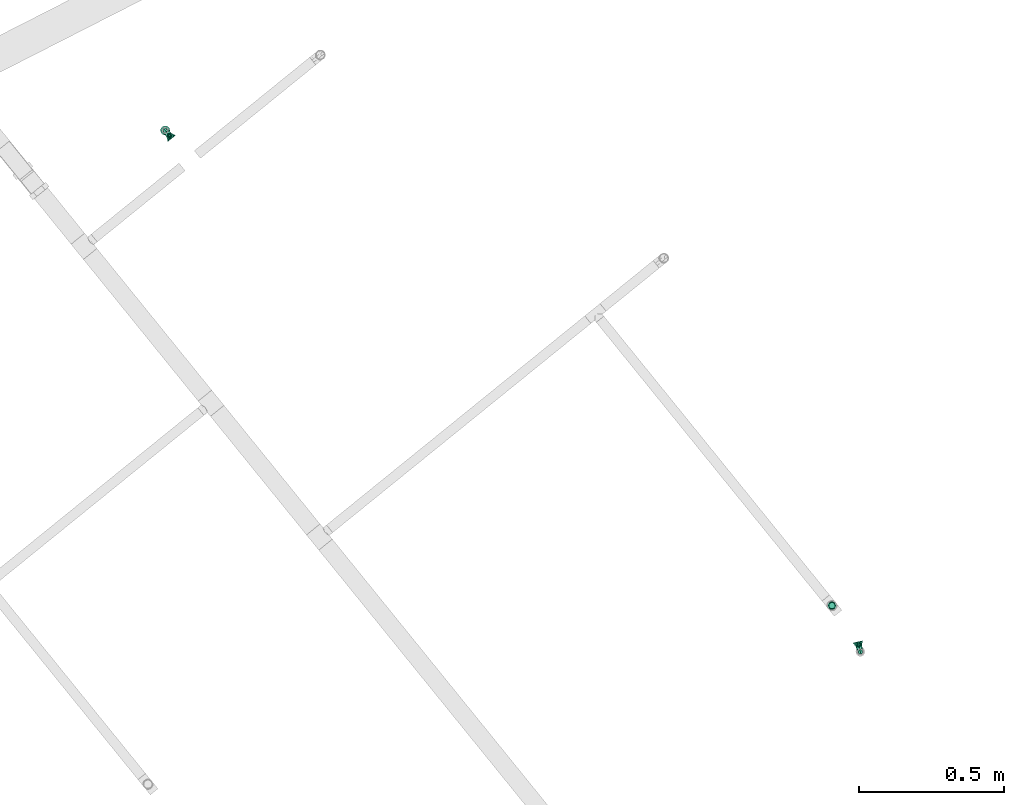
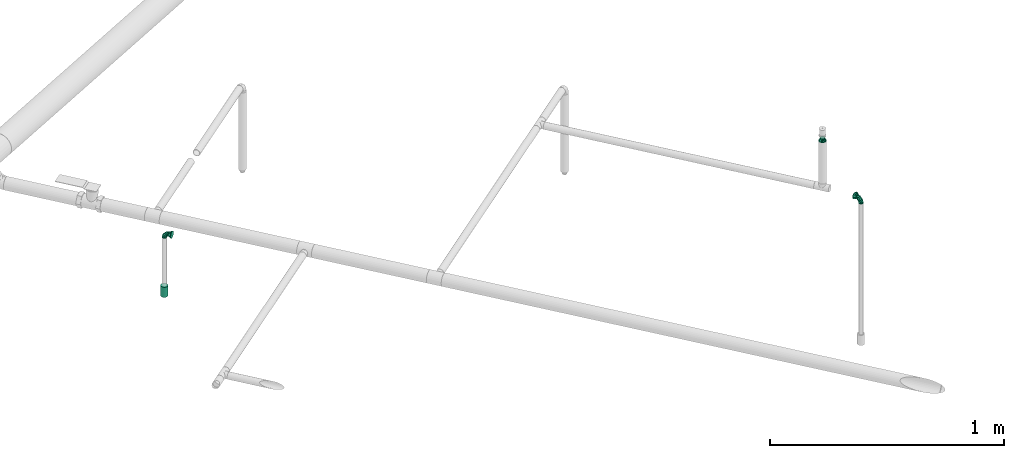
# One storey, part 85 of 94: 5 flow fittings, 1 flow terminal.
"""IFC2X3 building model written with IfcOpenShell, lengths in millimetres."""

from ifc_helpers import new_model, entity, si_unit, converted_unit, derived_unit, direction, frame, origin_with_axes, place, context, subcontext, project, spatial, open_shell, surface_model, source, transform, mapped, type_object, element, save


model = new_model("IFC2X3")

# Units and contexts
model_context = context("Model", 3, precision=0.01, world=frame((0.0, 4.29681676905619e-09, 0.0)), true_north=direction((4.01073788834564e-13, 1.0)))
plan_context = context("Plan", 3, precision=0.01, world=frame((0.0, 4.29681676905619e-09, 0.0)), true_north=direction((4.01073788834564e-13, 1.0)))
body_context = subcontext(model_context, "Body", "Model", "MODEL_VIEW")
ifc_project = project(units=[converted_unit("PLANEANGLEUNIT", "DEGREE", entity("IfcPositiveLengthMeasure", 0.0174532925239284), si_unit("PLANEANGLEUNIT", "RADIAN"), dimensions=[0, 0, 0, 0, 0, 0, 0]), si_unit("AREAUNIT", "SQUARE_METRE"), si_unit("LENGTHUNIT", "METRE", prefix="MILLI"), si_unit("MASSUNIT", "GRAM", prefix="KILO"), si_unit("POWERUNIT", "WATT"), si_unit("PRESSUREUNIT", "PASCAL", prefix="KILO"), si_unit("FORCEUNIT", "NEWTON", prefix="KILO"), si_unit("ELECTRICVOLTAGEUNIT", "VOLT"), si_unit("ELECTRICCURRENTUNIT", "AMPERE"), si_unit("THERMODYNAMICTEMPERATUREUNIT", "DEGREE_CELSIUS"), si_unit("TIMEUNIT", "SECOND"), si_unit("VOLUMEUNIT", "CUBIC_METRE"), derived_unit("LINEARVELOCITYUNIT", [(si_unit("LENGTHUNIT", "METRE"), 1), (si_unit("TIMEUNIT", "SECOND"), -1)]), derived_unit("VOLUMETRICFLOWRATEUNIT", [(si_unit("VOLUMEUNIT", "CUBIC_METRE"), 1), (si_unit("TIMEUNIT", "SECOND"), -1)]), derived_unit("THERMALTRANSMITTANCEUNIT", [(si_unit("POWERUNIT", "WATT"), 1), (si_unit("THERMODYNAMICTEMPERATUREUNIT", "KELVIN"), -1), (si_unit("AREAUNIT", "SQUARE_METRE"), -1)]), derived_unit("SOUNDPRESSUREUNIT", [(si_unit("PRESSUREUNIT", "PASCAL"), 1)])], contexts=[model_context, plan_context])

# Site, building, storey
site_placement = place(None, frame((0.0, -4.29681676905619e-09, 0.0), z_axis=(0.0, 0.0, 1.0), x_axis=(1.0, 0.0, 0.0)))
site = spatial("IfcSite", under=ifc_project, at=site_placement, CompositionType="ELEMENT")
building_placement = place(site_placement, frame((0.0, 4.29681676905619e-09, 0.0), z_axis=(0.0, 0.0, 1.0), x_axis=(1.0, 0.0, 0.0)))
building = spatial("IfcBuilding", under=site, at=building_placement, Name="mc-building", CompositionType="ELEMENT")
storey_placement = place(building_placement, frame((0.0, 0.0, 210900.0), z_axis=(0.0, 0.0, 1.0), x_axis=(1.0, 0.0, 0.0)))
storey = spatial("IfcBuildingStorey", under=building, at=storey_placement, Name="Nivå F", CompositionType="ELEMENT", Elevation=210900.0)

# Flow fittings
pipe_fitting_type_1 = type_object("IfcPipeFittingType", Name="magi_pipe_fe_reducer_centric_short_NOR", PredefinedType="TRANSITION")
shared_shape_1 = source(origin_with_axes(), body_context, "Body", "SurfaceModel", [
    surface_model("IfcShellBasedSurfaceModel", [(14.4, 5.35, -9.26647), (14.4, 0.0, -10.7), (14.4, 2.76936, -10.33541), (14.4, 10.33541, -2.76936), (14.4, 7.56604, -7.56604), (14.4, -10.33541, -2.76936), (14.4, 9.26647, -5.35), (14.4, 0.0, 10.7), (14.4, -5.35, -9.26647), (14.4, -2.76936, -10.33541), (14.4, -7.56604, -7.56604), (14.4, -9.26647, -5.35), (14.4, 10.7, 0.0), (14.4, 10.33541, 2.76936), (14.4, 9.26647, 5.35), (14.4, 7.56604, 7.56604), (14.4, 2.76936, 10.33541), (14.4, 5.35, 9.26647), (14.4, -10.33541, 2.76936), (14.4, -7.56604, 7.56604), (14.4, -9.26647, 5.35), (14.4, -10.7, 0.0), (14.4, -2.76936, 10.33541), (14.4, -5.35, 9.26647), (12.4, 2.76936, 10.33541), (12.4, -10.33541, -2.76936), (12.4, 0.0, 10.7), (12.4, 5.35, 9.26647), (12.4, 7.56604, 7.56604), (12.4, 9.26647, 5.35), (12.4, 10.33541, 2.76936), (12.4, -10.33541, 2.76936), (12.4, -2.76936, 10.33541), (12.4, -7.56604, 7.56604), (12.4, -5.35, 9.26647), (12.4, -9.26647, 5.35), (12.4, -10.7, 0.0), (12.4, 10.33541, -2.76936), (12.4, 5.35, -9.26647), (12.4, 9.26647, -5.35), (12.4, 7.56604, -7.56604), (12.4, 2.76936, -10.33541), (12.4, -9.26647, -5.35), (12.4, -5.35, -9.26647), (12.4, -7.56604, -7.56604), (12.4, 0.0, -10.7), (12.4, -2.76936, -10.33541), (12.4, 10.7, 0.0), (-2.0, 11.9501, 11.9501), (-2.0, 0.0, 16.9), (-2.0, 4.37404, 16.32415), (-2.0, 8.45, 14.63583), (-2.0, 14.63583, 8.45), (-2.0, 16.32415, 4.37404), (-2.0, -16.32415, 4.37404), (-2.0, -8.45, 14.63583), (-2.0, -14.63583, 8.45), (-2.0, -11.9501, 11.9501), (-2.0, -4.37404, 16.32415), (-2.0, -16.32415, -4.37404), (-2.0, -16.9, 0.0), (-2.0, -8.45, -14.63583), (-2.0, 16.32415, -4.37404), (-2.0, 11.9501, -11.9501), (-2.0, 14.63583, -8.45), (-2.0, 8.45, -14.63583), (-2.0, 4.37404, -16.32415), (-2.0, 0.0, -16.9), (-2.0, -11.9501, -11.9501), (-2.0, -14.63583, -8.45), (-2.0, -4.37404, -16.32415), (-2.0, 16.9, 0.0), (0.0, 4.37404, -16.32415), (0.0, 8.45, -14.63583), (0.0, 11.9501, -11.9501), (0.0, 0.0, -16.9), (0.0, 16.32415, -4.37404), (0.0, 16.32415, 4.37404), (0.0, 14.63583, -8.45), (0.0, -8.45, -14.63583), (0.0, -4.37404, -16.32415), (0.0, -11.9501, -11.9501), (0.0, -16.32415, -4.37404), (0.0, -14.63583, -8.45), (0.0, -16.32415, 4.37404), (0.0, 16.9, 0.0), (0.0, 14.63583, 8.45), (0.0, 11.9501, 11.9501), (0.0, 4.37404, 16.32415), (0.0, 8.45, 14.63583), (0.0, 0.0, 16.9), (0.0, -14.63583, 8.45), (0.0, -16.9, 0.0), (0.0, -8.45, 14.63583), (0.0, -11.9501, 11.9501), (0.0, -4.37404, 16.32415), (12.4, 9.3625, -2.31662), (0.0, 14.42505, -5.97505), (0.0, 15.66253, -2.98753), (12.4, -6.6875, -6.94985), (0.0, -13.18758, -8.96258), (0.0, 2.98753, -15.66253), (12.4, 0.0, -9.26647), (12.4, 6.6875, -6.94985), (0.0, 8.96258, -13.18758), (12.4, -9.3625, -2.31662), (0.0, -15.66253, -2.98753), (0.0, -14.42505, -5.97505), (0.0, 5.97505, -14.42505), (0.0, -2.98753, -15.66253), (0.0, -8.96258, -13.18758), (0.0, 13.18758, -8.96258), (12.4, 8.025, -4.63324), (12.4, -2.675, -9.26647), (12.4, 2.675, -9.26647), (0.0, -5.97505, -14.42505), (12.4, -8.025, -4.63324), (12.4, -9.3625, 2.31662), (0.0, -14.42505, 5.97505), (0.0, -15.66253, 2.98753), (12.4, 6.6875, 6.94985), (0.0, 13.18758, 8.96258), (0.0, -2.98753, 15.66253), (12.4, 0.0, 9.26647), (12.4, -6.6875, 6.94985), (0.0, -8.96258, 13.18758), (12.4, 9.3625, 2.31662), (0.0, 15.66253, 2.98753), (0.0, 14.42505, 5.97505), (0.0, -5.97505, 14.42505), (0.0, 2.98753, 15.66253), (0.0, 8.96258, 13.18758), (0.0, -13.18758, 8.96258), (12.4, -8.025, 4.63324), (12.4, 2.675, 9.26647), (12.4, -2.675, 9.26647), (0.0, 5.97505, 14.42505), (12.4, 8.025, 4.63324)], [open_shell([[[0, 1, 2]], [[3, 0, 4]], [[5, 0, 3]], [[3, 4, 6]], [[7, 5, 3]], [[1, 8, 9]], [[1, 0, 8]], [[10, 5, 11]], [[5, 10, 8]], [[0, 5, 8]], [[3, 12, 13]], [[13, 14, 15]], [[13, 15, 16]], [[7, 3, 16]], [[16, 15, 17]], [[7, 18, 5]], [[18, 19, 20]], [[21, 5, 18]], [[19, 22, 23]], [[22, 19, 18]], [[7, 22, 18]], [[13, 16, 3]], [[24, 25, 26]], [[27, 25, 24]], [[28, 29, 30]], [[28, 25, 27]], [[31, 26, 25]], [[32, 33, 34]], [[33, 32, 31]], [[33, 31, 35]], [[32, 26, 31]], [[31, 25, 36]], [[30, 37, 28]], [[25, 28, 37]], [[38, 37, 39]], [[37, 38, 25]], [[38, 39, 40]], [[41, 25, 38]], [[42, 43, 44]], [[43, 42, 25]], [[43, 45, 46]], [[43, 25, 41]], [[41, 45, 43]], [[37, 30, 47]], [[25, 5, 36]], [[42, 11, 25]], [[8, 44, 43]], [[42, 44, 10]], [[9, 43, 46]], [[25, 11, 5]], [[5, 21, 36]], [[9, 8, 43]], [[10, 44, 8]], [[10, 11, 42]], [[1, 9, 46]], [[46, 45, 1]], [[41, 2, 45]], [[38, 0, 41]], [[6, 40, 39]], [[38, 40, 4]], [[3, 39, 37]], [[38, 4, 0]], [[0, 2, 41]], [[12, 3, 37]], [[6, 39, 3]], [[6, 4, 40]], [[47, 12, 37]], [[45, 2, 1]], [[30, 13, 47]], [[29, 14, 30]], [[17, 28, 27]], [[29, 28, 15]], [[16, 27, 24]], [[30, 14, 13]], [[13, 12, 47]], [[16, 17, 27]], [[15, 28, 17]], [[15, 14, 29]], [[7, 16, 24]], [[24, 26, 7]], [[32, 22, 26]], [[34, 23, 32]], [[20, 33, 35]], [[34, 33, 19]], [[18, 35, 31]], [[34, 19, 23]], [[23, 22, 32]], [[21, 18, 31]], [[20, 35, 18]], [[20, 19, 33]], [[36, 21, 31]], [[26, 22, 7]], [[48, 49, 50]], [[48, 50, 51]], [[48, 52, 53]], [[48, 53, 49]], [[49, 53, 54]], [[55, 56, 57]], [[55, 58, 49]], [[56, 55, 49]], [[49, 54, 56]], [[54, 59, 60]], [[54, 53, 61]], [[53, 62, 63]], [[63, 62, 64]], [[63, 65, 66]], [[61, 53, 63]], [[67, 63, 66]], [[59, 68, 69]], [[68, 59, 61]], [[61, 67, 70]], [[59, 54, 61]], [[63, 67, 61]], [[53, 71, 62]], [[72, 73, 74]], [[75, 72, 74]], [[74, 76, 77]], [[76, 74, 78]], [[74, 77, 79]], [[75, 79, 80]], [[75, 74, 79]], [[81, 82, 83]], [[82, 81, 79]], [[79, 84, 82]], [[77, 76, 85]], [[77, 86, 87]], [[77, 87, 88]], [[88, 84, 79]], [[88, 87, 89]], [[84, 88, 90]], [[90, 91, 84]], [[92, 82, 84]], [[91, 93, 94]], [[91, 90, 93]], [[93, 90, 95]], [[79, 77, 88]], [[59, 82, 60]], [[69, 83, 59]], [[79, 68, 61]], [[69, 68, 81]], [[80, 61, 70]], [[59, 83, 82]], [[82, 92, 60]], [[80, 79, 61]], [[81, 68, 79]], [[81, 83, 69]], [[75, 80, 70]], [[70, 67, 75]], [[66, 72, 67]], [[65, 73, 66]], [[78, 63, 64]], [[65, 63, 74]], [[76, 64, 62]], [[65, 74, 73]], [[73, 72, 66]], [[85, 76, 62]], [[78, 64, 76]], [[78, 74, 63]], [[71, 85, 62]], [[67, 72, 75]], [[53, 77, 71]], [[52, 86, 53]], [[89, 48, 51]], [[52, 48, 87]], [[88, 51, 50]], [[53, 86, 77]], [[77, 85, 71]], [[88, 89, 51]], [[87, 48, 89]], [[87, 86, 52]], [[90, 88, 50]], [[50, 49, 90]], [[58, 95, 49]], [[55, 93, 58]], [[91, 57, 56]], [[55, 57, 94]], [[84, 56, 54]], [[55, 94, 93]], [[93, 95, 58]], [[92, 84, 54]], [[91, 56, 84]], [[91, 94, 57]], [[60, 92, 54]], [[49, 95, 90]], [[27, 34, 47]], [[47, 34, 43]], [[43, 38, 47]], [[43, 34, 36]], [[90, 87, 94]], [[92, 94, 87]], [[87, 74, 92]], [[75, 92, 74]], [[81, 92, 75]], [[74, 87, 85]], [[96, 97, 98]], [[81, 99, 100]], [[101, 102, 75]], [[98, 85, 47]], [[74, 103, 104]], [[104, 103, 38]], [[105, 106, 107]], [[38, 108, 104]], [[102, 109, 75]], [[110, 99, 81]], [[47, 96, 98]], [[103, 111, 112]], [[109, 102, 113]], [[36, 92, 106]], [[102, 101, 114]], [[110, 115, 43]], [[96, 112, 97]], [[107, 116, 105]], [[36, 106, 105]], [[113, 115, 109]], [[43, 115, 113]], [[116, 107, 100]], [[108, 38, 114]], [[111, 103, 74]], [[111, 97, 112]], [[99, 110, 43]], [[116, 100, 99]], [[101, 108, 114]], [[117, 118, 119]], [[87, 120, 121]], [[122, 123, 90]], [[119, 92, 36]], [[94, 124, 125]], [[125, 124, 34]], [[126, 127, 128]], [[34, 129, 125]], [[123, 130, 90]], [[131, 120, 87]], [[36, 117, 119]], [[124, 132, 133]], [[130, 123, 134]], [[47, 85, 127]], [[123, 122, 135]], [[131, 136, 27]], [[117, 133, 118]], [[128, 137, 126]], [[47, 127, 126]], [[134, 136, 130]], [[27, 136, 134]], [[137, 128, 121]], [[129, 34, 135]], [[132, 124, 94]], [[132, 118, 133]], [[120, 131, 27]], [[137, 121, 120]], [[122, 129, 135]]])]),
])
flow_fitting_placement = place(storey_placement, frame((727302.06172, 443560.15199, 3742.64799999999), z_axis=(-0.000893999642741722, -0.99999960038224, 0.0), x_axis=(0.0, 0.0, 1.0)))
element("IfcFlowFitting", 1, at=flow_fitting_placement, inside=storey, type_object=pipe_fitting_type_1, Name="magi_pipe_fe_reducer_centric_short_NOR", context=body_context, shape_type="MappedRepresentation", body=[
    mapped(shared_shape_1, transform((0.0, 0.0, 0.0), scale=1.0)),
])
shared_shape_2 = source(origin_with_axes(), body_context, "Body", "SurfaceModel", [
    surface_model("IfcShellBasedSurfaceModel", [(-2.0, -7.56604, -7.56604), (-2.0, -10.33541, -2.76936), (-2.0, -5.35, -9.26647), (-2.0, 5.35, -9.26647), (-2.0, 10.33541, -2.76936), (-2.0, 7.56604, -7.56604), (12.4, 11.9501, 11.9501), (12.4, 0.0, 16.9), (12.4, 11.9501, -11.9501), (12.4, 16.9, 0.0), (0.0, -10.7, 0.0), (0.0, -5.35, 9.26647), (0.0, -5.35, -9.26647), (0.0, 10.7, 0.0), (12.4, 15.66253, -2.98753), (12.4, 8.96258, -13.18758), (0.0, 6.6875, -6.94985), (12.4, -15.66253, -2.98753), (12.4, -16.9, 0.0), (12.4, 5.97505, -14.42505), (0.0, 5.35, -9.26647), (12.4, 14.42505, -5.97505), (0.0, 8.025, -4.63324), (0.0, 9.3625, -2.31662), (0.0, -9.3625, -2.31662), (0.0, -8.025, -4.63324), (12.4, -14.42505, -5.97505), (12.4, 13.18758, -8.96258), (12.4, -13.18758, -8.96258), (12.4, -11.9501, -11.9501), (0.0, -6.6875, -6.94985), (12.4, -8.96258, -13.18758), (12.4, -5.97505, -14.42505), (12.4, -15.66253, 2.98753), (12.4, -8.96258, 13.18758), (0.0, -6.6875, 6.94985), (12.4, -11.9501, 11.9501), (12.4, 15.66253, 2.98753), (12.4, -5.97505, 14.42505), (12.4, -14.42505, 5.97505), (0.0, -8.025, 4.63324), (0.0, -9.3625, 2.31662), (0.0, 9.3625, 2.31662), (0.0, 8.025, 4.63324), (12.4, 14.42505, 5.97505), (12.4, -13.18758, 8.96258), (12.4, 13.18758, 8.96258), (0.0, 6.6875, 6.94985), (12.4, 8.96258, 13.18758), (0.0, 5.35, 9.26647), (12.4, 5.97505, 14.42505), (14.4, 4.37404, -16.32415), (14.4, 8.45, -14.63583), (14.4, 11.9501, -11.9501), (14.4, -8.45, -14.63583), (14.4, 16.32415, -4.37404), (14.4, 16.32415, 4.37404), (14.4, 14.63583, -8.45), (14.4, 0.0, -16.9), (14.4, -4.37404, -16.32415), (14.4, -11.9501, -11.9501), (14.4, -16.32415, -4.37404), (14.4, -14.63583, -8.45), (14.4, -16.32415, 4.37404), (14.4, 16.9, 0.0), (14.4, 14.63583, 8.45), (14.4, 11.9501, 11.9501), (14.4, 4.37404, 16.32415), (14.4, 8.45, 14.63583), (14.4, 0.0, 16.9), (14.4, -14.63583, 8.45), (14.4, -16.9, 0.0), (14.4, -8.45, 14.63583), (14.4, -11.9501, 11.9501), (14.4, -4.37404, 16.32415), (12.4, 4.37404, 16.32415), (12.4, -14.63583, 8.45), (12.4, 16.32415, 4.37404), (12.4, 8.45, 14.63583), (12.4, 14.63583, 8.45), (12.4, -8.45, 14.63583), (12.4, -4.37404, 16.32415), (12.4, -16.32415, 4.37404), (12.4, -16.32415, -4.37404), (12.4, -8.45, -14.63583), (12.4, 16.32415, -4.37404), (12.4, 14.63583, -8.45), (12.4, 8.45, -14.63583), (12.4, 4.37404, -16.32415), (12.4, 0.0, -16.9), (12.4, -14.63583, -8.45), (12.4, -4.37404, -16.32415), (-2.0, 2.76936, 10.33541), (-2.0, 0.0, 10.7), (-2.0, 5.35, 9.26647), (-2.0, 7.56604, 7.56604), (-2.0, 9.26647, 5.35), (-2.0, 10.33541, 2.76936), (-2.0, -10.33541, 2.76936), (-2.0, -2.76936, 10.33541), (-2.0, -7.56604, 7.56604), (-2.0, -5.35, 9.26647), (-2.0, -9.26647, 5.35), (-2.0, -10.7, 0.0), (-2.0, 9.26647, -5.35), (-2.0, 2.76936, -10.33541), (-2.0, -9.26647, -5.35), (-2.0, 0.0, -10.7), (-2.0, -2.76936, -10.33541), (-2.0, 10.7, 0.0), (0.0, 0.0, -10.7), (0.0, 2.76936, -10.33541), (0.0, 10.33541, -2.76936), (0.0, 7.56604, -7.56604), (0.0, -10.33541, -2.76936), (0.0, 9.26647, -5.35), (0.0, 0.0, 10.7), (0.0, -2.76936, -10.33541), (0.0, -7.56604, -7.56604), (0.0, -9.26647, -5.35), (0.0, 10.33541, 2.76936), (0.0, 9.26647, 5.35), (0.0, 7.56604, 7.56604), (0.0, 2.76936, 10.33541), (0.0, -7.56604, 7.56604), (0.0, -10.33541, 2.76936), (0.0, -9.26647, 5.35), (0.0, -2.76936, 10.33541), (0.0, 2.675, -9.26647), (0.0, -2.675, -9.26647), (12.4, 2.98753, -15.66253), (0.0, 0.0, -9.26647), (12.4, -2.98753, -15.66253), (0.0, -2.675, 9.26647), (0.0, 2.675, 9.26647), (12.4, -2.98753, 15.66253), (0.0, 0.0, 9.26647), (12.4, 2.98753, 15.66253)], [open_shell([[[0, 1, 2]], [[3, 4, 5]], [[6, 7, 8]], [[8, 9, 6]], [[10, 11, 12]], [[13, 9, 14]], [[15, 16, 8]], [[17, 18, 10]], [[15, 19, 20]], [[21, 22, 23]], [[24, 25, 26]], [[22, 21, 27]], [[28, 26, 25]], [[29, 30, 31]], [[12, 32, 31]], [[10, 18, 33]], [[34, 35, 36]], [[37, 9, 13]], [[34, 38, 11]], [[39, 40, 41]], [[42, 43, 44]], [[40, 39, 45]], [[46, 44, 43]], [[6, 47, 48]], [[49, 50, 48]], [[51, 52, 53]], [[54, 51, 53]], [[53, 55, 56]], [[55, 53, 57]], [[53, 56, 54]], [[58, 54, 59]], [[58, 51, 54]], [[60, 61, 62]], [[61, 60, 54]], [[54, 63, 61]], [[56, 55, 64]], [[56, 65, 66]], [[56, 66, 67]], [[67, 63, 54]], [[67, 66, 68]], [[63, 67, 69]], [[69, 70, 63]], [[71, 61, 63]], [[70, 72, 73]], [[70, 69, 72]], [[72, 69, 74]], [[54, 56, 67]], [[75, 76, 7]], [[77, 75, 78]], [[6, 79, 77]], [[6, 77, 78]], [[76, 75, 77]], [[80, 76, 36]], [[80, 81, 7]], [[7, 76, 80]], [[82, 76, 77]], [[82, 83, 18]], [[82, 77, 84]], [[77, 85, 8]], [[8, 85, 86]], [[8, 87, 88]], [[84, 77, 8]], [[88, 89, 8]], [[83, 29, 90]], [[29, 83, 84]], [[84, 89, 91]], [[83, 82, 84]], [[8, 89, 84]], [[85, 77, 9]], [[83, 61, 18]], [[90, 62, 83]], [[54, 29, 84]], [[90, 29, 60]], [[59, 84, 91]], [[83, 62, 61]], [[61, 71, 18]], [[59, 54, 84]], [[60, 29, 54]], [[60, 62, 90]], [[58, 59, 91]], [[91, 89, 58]], [[88, 51, 89]], [[87, 52, 88]], [[57, 8, 86]], [[87, 8, 53]], [[55, 86, 85]], [[87, 53, 52]], [[52, 51, 88]], [[64, 55, 85]], [[57, 86, 55]], [[57, 53, 8]], [[9, 64, 85]], [[89, 51, 58]], [[77, 56, 9]], [[79, 65, 77]], [[68, 6, 78]], [[79, 6, 66]], [[67, 78, 75]], [[77, 65, 56]], [[56, 64, 9]], [[67, 68, 78]], [[66, 6, 68]], [[66, 65, 79]], [[69, 67, 75]], [[75, 7, 69]], [[81, 74, 7]], [[80, 72, 81]], [[70, 36, 76]], [[80, 36, 73]], [[63, 76, 82]], [[80, 73, 72]], [[72, 74, 81]], [[71, 63, 82]], [[70, 76, 63]], [[70, 73, 36]], [[18, 71, 82]], [[7, 74, 69]], [[92, 1, 93]], [[94, 1, 92]], [[95, 96, 97]], [[95, 97, 94]], [[98, 93, 1]], [[99, 100, 101]], [[99, 93, 100]], [[100, 98, 102]], [[93, 98, 100]], [[98, 1, 103]], [[94, 97, 1]], [[1, 97, 4]], [[5, 4, 104]], [[4, 3, 1]], [[105, 1, 3]], [[1, 0, 106]], [[2, 107, 108]], [[2, 1, 105]], [[105, 107, 2]], [[4, 97, 109]], [[20, 110, 111]], [[112, 20, 113]], [[114, 20, 112]], [[112, 113, 115]], [[116, 114, 112]], [[110, 12, 117]], [[110, 20, 12]], [[118, 114, 119]], [[114, 118, 12]], [[20, 114, 12]], [[112, 13, 120]], [[120, 121, 122]], [[120, 122, 123]], [[116, 112, 123]], [[123, 122, 49]], [[116, 124, 114]], [[125, 124, 126]], [[10, 114, 125]], [[124, 127, 11]], [[125, 114, 124]], [[127, 124, 116]], [[123, 112, 120]], [[1, 114, 103]], [[106, 119, 1]], [[12, 0, 2]], [[106, 0, 118]], [[117, 2, 108]], [[1, 119, 114]], [[114, 10, 103]], [[117, 12, 2]], [[118, 0, 12]], [[118, 119, 106]], [[110, 117, 108]], [[108, 107, 110]], [[105, 111, 107]], [[3, 20, 105]], [[115, 5, 104]], [[3, 5, 113]], [[112, 104, 4]], [[3, 113, 20]], [[20, 111, 105]], [[13, 112, 4]], [[115, 104, 112]], [[115, 113, 5]], [[109, 13, 4]], [[107, 111, 110]], [[97, 120, 109]], [[96, 121, 97]], [[49, 95, 94]], [[96, 95, 122]], [[123, 94, 92]], [[97, 121, 120]], [[120, 13, 109]], [[123, 49, 94]], [[122, 95, 49]], [[122, 121, 96]], [[116, 123, 92]], [[92, 93, 116]], [[99, 127, 93]], [[101, 11, 99]], [[126, 100, 102]], [[101, 100, 124]], [[125, 102, 98]], [[101, 124, 11]], [[11, 127, 99]], [[10, 125, 98]], [[126, 102, 125]], [[126, 124, 100]], [[103, 10, 98]], [[93, 127, 116]], [[18, 7, 36]], [[18, 29, 8]], [[89, 8, 29]], [[18, 8, 7]], [[13, 11, 49]], [[13, 20, 12]], [[13, 12, 11]], [[24, 26, 17]], [[10, 24, 17]], [[16, 15, 20]], [[30, 12, 31]], [[23, 14, 21]], [[19, 128, 20]], [[27, 8, 16]], [[32, 12, 129]], [[30, 28, 25]], [[130, 131, 128]], [[129, 132, 32]], [[16, 22, 27]], [[13, 14, 23]], [[128, 19, 130]], [[130, 89, 131]], [[131, 132, 129]], [[89, 132, 131]], [[28, 30, 29]], [[42, 44, 37]], [[13, 42, 37]], [[35, 34, 11]], [[47, 49, 48]], [[41, 33, 39]], [[38, 133, 11]], [[45, 36, 35]], [[50, 49, 134]], [[47, 46, 43]], [[135, 136, 133]], [[134, 137, 50]], [[35, 40, 45]], [[10, 33, 41]], [[133, 38, 135]], [[135, 7, 136]], [[136, 137, 134]], [[7, 137, 136]], [[46, 47, 6]]])]),
])
for number, where, z_axis, x_axis, name in (
    (2, (725013.46746, 445184.06908, 3070.0), (0.0, 0.0, 1.0), (0.629320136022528, -0.777146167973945, 0.0), "magi_pipe_fe_reducer_centric_short_NOR"),
    (3, (727394.85636, 443421.47265, 3500.0), (0.0, 0.0, 1.0), (-0.24035689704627, 0.970684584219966, 0.0), "magi_pipe_fe_reducer_centric_short_NOR"),
):
    element("IfcFlowFitting", number, at=place(storey_placement, frame(where, z_axis=z_axis, x_axis=x_axis)), inside=storey, type_object=pipe_fitting_type_1, Name=name, context=body_context, shape_type="MappedRepresentation", body=[
        mapped(shared_shape_2, transform((0.0, 0.0, 0.0), scale=1.0)),
    ])
pipe_fitting_type_2 = type_object("IfcPipeFittingType", Name="magi_pipe_fe_elbow_short_001", PredefinedType="BEND")
shared_shape_3 = source(origin_with_axes(), body_context, "Body", "SurfaceModel", [
    surface_model("IfcShellBasedSurfaceModel", [(-21.4, 2.76936, -10.33541), (-21.4, 0.0, -10.7), (-21.4, 7.56604, -7.56604), (-21.4, 5.35, -9.26647), (-21.4, 10.33541, -2.76936), (-21.4, 9.26647, -5.35), (-21.4, -7.56604, 7.56604), (-21.4, -5.35, -9.26647), (-21.4, -5.35, 9.26647), (-21.4, -7.56604, -7.56604), (-21.4, -9.26647, -5.35), (-21.4, -2.76936, -10.33541), (-21.4, -10.33541, -2.76936), (-21.4, -10.7, 0.0), (-21.4, 10.7, 0.0), (-21.4, 10.33541, 2.76936), (-21.4, 9.26647, 5.35), (-21.4, 7.56604, 7.56604), (-21.4, 5.35, 9.26647), (-21.4, 2.76936, 10.33541), (-21.4, -10.33541, 2.76936), (-21.4, -9.26647, 5.35), (-21.4, -2.76936, 10.33541), (-21.4, 0.0, 10.7), (-7.56604, 21.4, -7.56604), (0.0, 21.4, -10.7), (-2.76936, 21.4, -10.33541), (-5.35, 21.4, -9.26647), (-9.26647, 21.4, -5.35), (-10.33541, 21.4, -2.76936), (10.7, 21.4, 0.0), (5.35, 21.4, -9.26647), (9.26647, 21.4, -5.35), (7.56604, 21.4, -7.56604), (2.76936, 21.4, -10.33541), (10.33541, 21.4, -2.76936), (-10.33541, 21.4, 2.76936), (5.35, 21.4, 9.26647), (-7.56604, 21.4, 7.56604), (-9.26647, 21.4, 5.35), (-5.35, 21.4, 9.26647), (-2.76936, 21.4, 10.33541), (9.26647, 21.4, 5.35), (10.33541, 21.4, 2.76936), (7.56604, 21.4, 7.56604), (0.0, 21.4, 10.7), (2.76936, 21.4, 10.33541), (-10.7, 21.4, 0.0), (-17.99408, -9.78739, 0.0), (-9.96908, -7.6371, 0.0), (-9.09404, -6.9243, 4.95785), (-14.48689, -7.04149, 7.24979), (5.63065, 8.24892, 6.28438), (2.06258, 3.09852, 6.68299), (3.46206, 2.41265, 0.0), (0.98571, 10.3211, 10.08431), (-14.58817, -8.87478, 0.0), (5.00363, 14.04705, 8.8538), (-11.43216, -3.30045, 9.33143), (7.6371, 9.96908, 0.0), (8.87478, 14.58817, 0.0), (-7.84024, 13.84213, 8.94205), (-3.62699, 16.02976, 10.31804), (-15.33449, 3.33478, 10.44017), (-7.99137, -0.64527, 9.75219), (-12.26698, 17.61698, 0.0), (-13.83396, 13.83396, 0.0), (-5.22925, -4.43288, 5.66596), (6.39942, 5.35, 0.0), (-15.15468, 10.16047, 6.44408), (-10.16467, 10.01422, 9.23503), (9.78739, 17.99408, 0.0), (-7.22951, 3.98894, 10.64848), (-2.16379, -1.00373, 6.95774), (0.52471, -0.52471, 0.0), (-2.94157, 6.97816, 10.50675), (-17.61698, 12.26698, 0.0), (-2.41265, -3.46206, 0.0), (-5.35, -6.39942, 0.0), (-8.83498, -0.07405, -10.11828), (-2.16379, -1.00373, -6.95774), (-5.8406, -4.06158, -6.57779), (-7.84024, 13.84213, -8.94205), (-15.33449, 3.33478, -10.44017), (-11.43216, -3.30045, -9.33143), (-15.15468, 10.16047, -6.44408), (-7.22951, 3.98894, -10.64848), (-10.16467, 10.01422, -9.23503), (2.06258, 3.09852, -6.68299), (-2.94157, 6.97816, -10.50675), (-14.48689, -7.04149, -7.24979), (5.00363, 14.04705, -8.8538), (-3.62699, 16.02976, -10.31804), (0.98571, 10.3211, -10.08431), (5.63065, 8.24892, -6.28438), (-9.09404, -6.9243, -4.95785)], [open_shell([[[0, 1, 2]], [[3, 0, 2]], [[4, 5, 2]], [[6, 1, 7]], [[1, 8, 2]], [[9, 10, 7]], [[1, 11, 7]], [[12, 13, 10]], [[7, 10, 13]], [[13, 6, 7]], [[4, 2, 14]], [[8, 15, 2]], [[16, 15, 17]], [[8, 18, 15]], [[17, 15, 18]], [[18, 8, 19]], [[20, 21, 13]], [[13, 21, 6]], [[22, 23, 8]], [[6, 8, 1]], [[8, 23, 19]], [[15, 14, 2]], [[24, 25, 26]], [[24, 26, 27]], [[24, 28, 29]], [[24, 29, 25]], [[25, 29, 30]], [[31, 32, 33]], [[31, 34, 25]], [[32, 30, 35]], [[30, 32, 31]], [[25, 30, 31]], [[29, 36, 30]], [[30, 36, 37]], [[38, 36, 39]], [[36, 40, 37]], [[40, 36, 38]], [[41, 37, 40]], [[30, 42, 43]], [[44, 42, 30]], [[37, 45, 46]], [[30, 37, 44]], [[41, 45, 37]], [[29, 47, 36]], [[21, 20, 48]], [[49, 50, 51]], [[52, 53, 54]], [[52, 55, 53]], [[51, 6, 56]], [[6, 21, 56]], [[41, 57, 45]], [[23, 51, 58]], [[51, 22, 8]], [[57, 59, 60]], [[61, 55, 62]], [[63, 58, 64]], [[65, 66, 61]], [[51, 23, 22]], [[23, 58, 19]], [[67, 58, 50]], [[54, 68, 52]], [[63, 17, 18]], [[20, 13, 48]], [[14, 15, 69]], [[16, 17, 63]], [[62, 40, 38]], [[19, 58, 63]], [[16, 69, 15]], [[63, 18, 19]], [[59, 52, 68]], [[60, 44, 37]], [[57, 46, 45]], [[69, 70, 66]], [[52, 59, 57]], [[39, 62, 38]], [[60, 42, 44]], [[37, 57, 60]], [[37, 46, 57]], [[6, 51, 8]], [[43, 71, 30]], [[51, 56, 49]], [[70, 69, 72]], [[73, 74, 53]], [[75, 72, 73]], [[16, 63, 69]], [[47, 65, 36]], [[42, 71, 43]], [[55, 57, 62]], [[52, 57, 55]], [[41, 40, 62]], [[60, 71, 42]], [[36, 61, 39]], [[48, 56, 21]], [[61, 62, 39]], [[62, 57, 41]], [[69, 63, 72]], [[53, 75, 73]], [[69, 66, 76]], [[67, 64, 58]], [[75, 53, 55]], [[67, 77, 73]], [[55, 61, 75]], [[70, 75, 61]], [[50, 49, 78]], [[67, 50, 78]], [[51, 50, 58]], [[77, 74, 73]], [[73, 72, 64]], [[67, 78, 77]], [[73, 64, 67]], [[63, 64, 72]], [[36, 65, 61]], [[75, 70, 72]], [[14, 69, 76]], [[66, 70, 61]], [[53, 74, 54]], [[79, 80, 81]], [[65, 29, 82]], [[3, 2, 83]], [[0, 84, 1]], [[4, 14, 85]], [[10, 48, 12]], [[83, 5, 85]], [[85, 5, 4]], [[86, 85, 87]], [[83, 86, 79]], [[83, 84, 0]], [[48, 13, 12]], [[80, 77, 81]], [[88, 80, 89]], [[10, 9, 56]], [[7, 11, 90]], [[91, 31, 60]], [[9, 7, 90]], [[90, 11, 1]], [[84, 90, 1]], [[9, 90, 56]], [[28, 92, 82]], [[5, 83, 2]], [[85, 14, 76]], [[80, 88, 74]], [[82, 66, 65]], [[93, 82, 92]], [[28, 82, 29]], [[28, 24, 92]], [[24, 27, 92]], [[71, 60, 32]], [[91, 92, 26]], [[56, 48, 10]], [[35, 30, 71]], [[27, 26, 92]], [[94, 88, 93]], [[25, 91, 26]], [[31, 91, 34]], [[83, 0, 3]], [[94, 93, 91]], [[33, 60, 31]], [[89, 93, 88]], [[34, 91, 25]], [[71, 32, 35]], [[92, 91, 93]], [[59, 91, 60]], [[86, 83, 85]], [[95, 78, 49]], [[33, 32, 60]], [[66, 87, 85]], [[94, 59, 68]], [[89, 80, 86]], [[49, 56, 90]], [[94, 54, 88]], [[59, 94, 91]], [[95, 90, 84]], [[87, 89, 86]], [[82, 93, 89]], [[81, 78, 95]], [[90, 95, 49]], [[81, 95, 84]], [[79, 81, 84]], [[82, 87, 66]], [[83, 79, 84]], [[80, 79, 86]], [[77, 80, 74]], [[77, 78, 81]], [[47, 29, 65]], [[76, 66, 85]], [[89, 87, 82]], [[54, 94, 68]], [[54, 74, 88]]])]),
])
for number, where, z_axis, x_axis, name in (
    (4, (725000.0, 445200.7, 3070.0), (0.777146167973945, 0.629320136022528, 0.0), (0.0, 0.0, 1.0), "magi_pipe_fe_elbow_short_001"),
    (5, (727400.0, 443400.7, 3500.0), (-0.970684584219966, -0.24035689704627, 0.0), (0.0, 0.0, 1.0), "magi_pipe_fe_elbow_short_001"),
):
    element("IfcFlowFitting", number, at=place(storey_placement, frame(where, z_axis=z_axis, x_axis=x_axis)), inside=storey, type_object=pipe_fitting_type_2, Name=name, context=body_context, shape_type="MappedRepresentation", body=[
        mapped(shared_shape_3, transform((0.0, 0.0, 0.0), scale=1.0)),
    ])

# Flow terminal
fire_suppression_terminal_type = type_object("IfcFireSuppressionTerminalType", Name="SP-15-K80-68DGR-STD-HIMLING", PredefinedType="NOTDEFINED")
shared_shape_4 = source(origin_with_axes(), body_context, "Body", "SurfaceModel", [
    surface_model("IfcShellBasedSurfaceModel", [(4.1411, -15.45481, 53.0), (8.0, -13.85641, 53.0), (11.31371, -11.31371, 53.0), (-8.0, -13.85641, 53.0), (15.45481, -4.1411, 53.0), (16.0, 0.0, 53.0), (13.85641, -8.0, 53.0), (0.0, -16.0, 53.0), (-4.1411, -15.45481, 53.0), (-13.85641, -8.0, 53.0), (-11.31371, -11.31371, 53.0), (-15.45481, -4.1411, 53.0), (15.45481, 4.1411, 53.0), (13.85641, 8.0, 53.0), (11.31371, 11.31371, 53.0), (-4.1411, 15.45481, 53.0), (8.0, 13.85641, 53.0), (4.1411, 15.45481, 53.0), (0.0, 16.0, 53.0), (-13.85641, 8.0, 53.0), (-15.45481, 4.1411, 53.0), (-16.0, 0.0, 53.0), (-11.31371, 11.31371, 53.0), (-8.0, 13.85641, 53.0), (0.0, 16.0, 0.0), (4.1411, 15.45481, 0.0), (8.0, 13.85641, 0.0), (-4.1411, 15.45481, 0.0), (11.31371, 11.31371, 0.0), (13.85641, 8.0, 0.0), (15.45481, 4.1411, 0.0), (-15.45481, -4.1411, 0.0), (-11.31371, 11.31371, 0.0), (-8.0, 13.85641, 0.0), (-13.85641, 8.0, 0.0), (-15.45481, 4.1411, 0.0), (-16.0, 0.0, 0.0), (4.1411, -15.45481, 0.0), (16.0, 0.0, 0.0), (15.45481, -4.1411, 0.0), (13.85641, -8.0, 0.0), (11.31371, -11.31371, 0.0), (8.0, -13.85641, 0.0), (-8.0, -13.85641, 0.0), (-13.85641, -8.0, 0.0), (-11.31371, -11.31371, 0.0), (0.0, -16.0, 0.0), (-4.1411, -15.45481, 0.0)], [open_shell([[[0, 1, 2]], [[3, 0, 2]], [[4, 5, 2]], [[4, 2, 6]], [[3, 2, 5]], [[7, 3, 8]], [[7, 0, 3]], [[3, 9, 10]], [[9, 3, 11]], [[5, 11, 3]], [[5, 12, 11]], [[12, 13, 14]], [[15, 12, 14]], [[16, 17, 18]], [[14, 16, 15]], [[18, 15, 16]], [[11, 19, 20]], [[21, 11, 20]], [[22, 15, 23]], [[15, 22, 19]], [[19, 11, 15]], [[11, 12, 15]], [[24, 25, 26]], [[27, 24, 26]], [[28, 29, 30]], [[27, 26, 28]], [[27, 28, 31]], [[27, 32, 33]], [[32, 27, 34]], [[34, 31, 35]], [[31, 34, 27]], [[35, 31, 36]], [[28, 30, 31]], [[37, 38, 39]], [[37, 39, 40]], [[41, 42, 37]], [[41, 37, 40]], [[38, 37, 43]], [[44, 43, 45]], [[43, 44, 31]], [[43, 46, 47]], [[43, 31, 38]], [[37, 46, 43]], [[38, 31, 30]], [[11, 31, 44]], [[45, 9, 44]], [[3, 43, 47]], [[45, 43, 10]], [[8, 47, 46]], [[31, 21, 36]], [[31, 11, 21]], [[44, 9, 11]], [[45, 10, 9]], [[3, 10, 43]], [[47, 8, 3]], [[46, 7, 8]], [[0, 37, 42]], [[41, 1, 42]], [[6, 40, 39]], [[41, 40, 2]], [[4, 39, 38]], [[37, 0, 7]], [[42, 1, 0]], [[41, 2, 1]], [[40, 6, 2]], [[4, 6, 39]], [[38, 5, 4]], [[37, 7, 46]], [[12, 38, 30]], [[13, 30, 29]], [[16, 26, 25]], [[17, 25, 24]], [[30, 13, 12]], [[12, 5, 38]], [[28, 14, 13]], [[28, 26, 14]], [[14, 26, 16]], [[25, 17, 16]], [[28, 13, 29]], [[24, 18, 17]], [[15, 27, 33]], [[32, 23, 33]], [[19, 34, 35]], [[32, 34, 22]], [[20, 35, 36]], [[27, 15, 18]], [[33, 23, 15]], [[32, 22, 23]], [[34, 19, 22]], [[20, 19, 35]], [[36, 21, 20]], [[27, 18, 24]]])]),
])
flow_terminal_placement = place(storey_placement, frame((725000.0, 445200.7, 2797.53873999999), z_axis=(0.0, 0.0, -1.0), x_axis=(-1.0, 0.0, 0.0)))
element("IfcFlowTerminal", 6, at=flow_terminal_placement, inside=storey, type_object=fire_suppression_terminal_type, Name="SP-15-K80-68DGR-STD-HIMLING", context=body_context, shape_type="MappedRepresentation", body=[
    mapped(shared_shape_4, transform((0.0, 0.0, 0.0), scale=1.0)),
])

save(model, "model.ifc")
